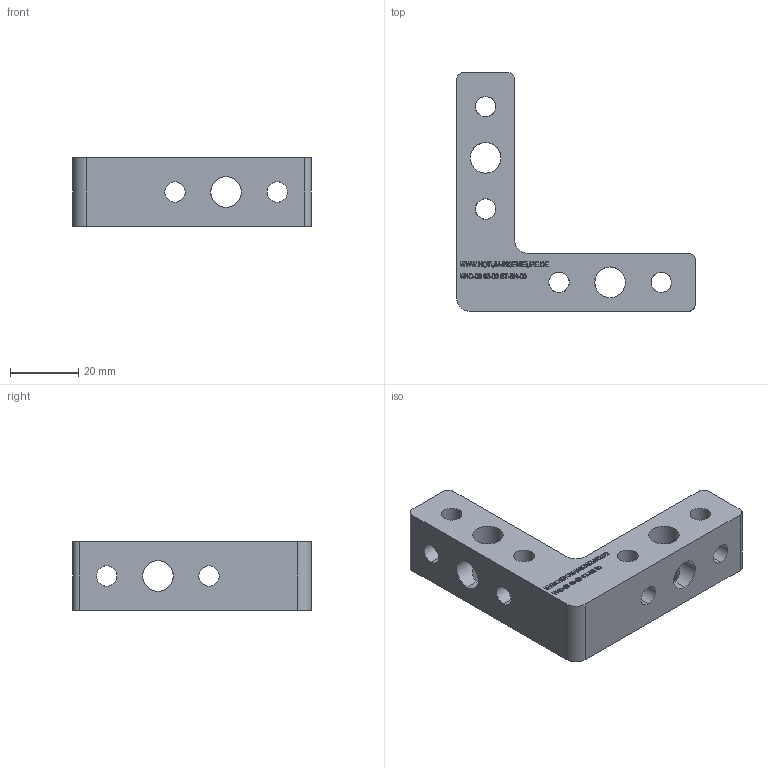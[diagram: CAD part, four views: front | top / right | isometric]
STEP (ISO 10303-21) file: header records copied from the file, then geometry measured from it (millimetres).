
FILE_DESCRIPTION (( 'STEP AP214' ), '1' );
FILE_NAME ('W4D-08-03-00-ST-BR-00__Notum.STEP', '2018-03-29T11:18:25', ( '' ), ( '' ), 'SwSTEP 2.0', 'SolidWorks 2015', '' );
FILE_SCHEMA (( 'AUTOMOTIVE_DESIGN' ));
Length unit declared in the file: millimetre
Products named in the file (1): W4D-08-03-00-ST-BR-00__Notum
Bounding box: 70 x 70 x 20 mm (x, y, z)
Volume: 34396.3 mm3; surface area: 12475.6 mm2
Topology: 1 solids, 1 shells, 594 faces, 1596 edges, 1052 vertices
Faces by surface type: plane 361, bspline 179, cylinder 54
Entity records: 33708 total; most frequent: CARTESIAN_POINT 14022, ORIENTED_EDGE 3192, DIRECTION 2082, EDGE_CURVE 1596, VECTOR 1130, LINE 1130, VERTEX_POINT 1052, EDGE_LOOP 678
